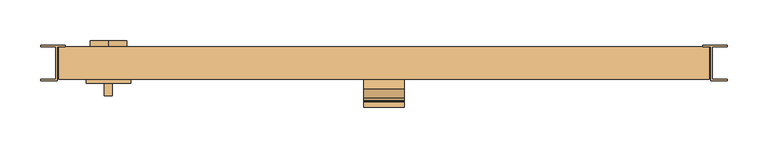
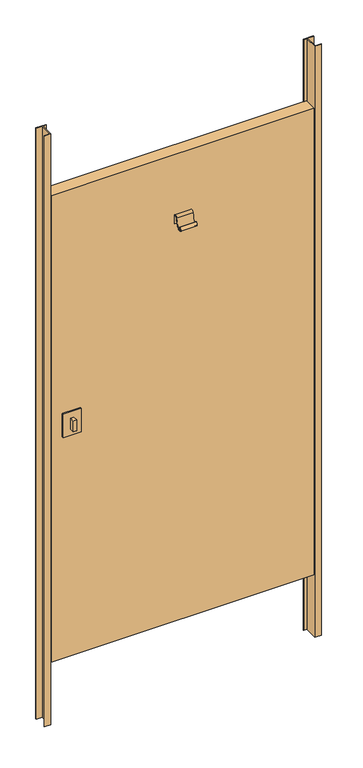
"""IFC4 building model written with IfcOpenShell, lengths in millimetres: door geometry, FDE_PM_PortaBoxe : PM74_PortaBoxe_L0,62m."""

import ifcopenshell
import ifcopenshell.guid

model = None  # the IFC model being written
_history = None  # IfcOwnerHistory: only IFC2X3 demands one
_inside = {}  # id of a spatial element -> (the spatial element, [elements in it])
_under = {}  # id of a project, library or spatial element -> (it, [spatial elements below it])
_declared = {}  # id of a project -> (the project, [libraries it declares])
_typed = {}  # id of a type object -> (the type object, [elements of that type])
_made_of = {}  # id of a material, layer set ... -> (it, [elements and type objects made of it])


def new_model(schema):
    """Start an empty IFC model of exactly this schema.

    Asked for "IFC4X3", IfcOpenShell would pick the latest addendum, in which some entities
    have other attributes; the version numbers below select the first issue.
    IFC2X3 requires an IfcOwnerHistory on every rooted entity: one is made here for all.
    """
    global model, _history
    if schema == "IFC4X3":
        model = ifcopenshell.file(schema_version=(4, 3, 0, 0))
    else:
        model = ifcopenshell.file(schema=schema)
    _inside.clear()
    _under.clear()
    _declared.clear()
    _typed.clear()
    _made_of.clear()
    _history = None
    if model.schema == "IFC2X3":
        org = make("IfcOrganization", Name="unknown")
        user = make(
            "IfcPersonAndOrganization",
            ThePerson=make("IfcPerson", FamilyName="unknown"),
            TheOrganization=org,
        )
        app = make(
            "IfcApplication",
            ApplicationDeveloper=org,
            Version="unknown",
            ApplicationFullName="unknown",
            ApplicationIdentifier="unknown",
        )
        _history = make(
            "IfcOwnerHistory",
            OwningUser=user,
            OwningApplication=app,
            ChangeAction="ADDED",
            CreationDate=0,
        )
    return model


def make(cls, **values):
    """One entity of the class cls with the attributes given. An attribute that is None is left unset."""
    return model.create_entity(
        cls, **{name: value for name, value in values.items() if value is not None}
    )


def rooted(cls, **values):
    """An entity with a GlobalId (a new one), such as an element, a storey or a relation."""
    return make(cls, GlobalId=ifcopenshell.guid.new(), OwnerHistory=_history, **values)


def si_unit(unit_type, name, prefix=None):
    """IfcSIUnit, for example si_unit("LENGTHUNIT", "METRE", prefix="MILLI")."""
    return make("IfcSIUnit", UnitType=unit_type, Prefix=prefix, Name=name)


def assignment(units):
    """IfcUnitAssignment: the units of a project."""
    return None if units is None else make("IfcUnitAssignment", Units=units)


def point(xyz):
    """IfcCartesianPoint."""
    return None if xyz is None else make("IfcCartesianPoint", Coordinates=xyz)


def direction(xyz):
    """IfcDirection."""
    return None if xyz is None else make("IfcDirection", DirectionRatios=xyz)


def frame(location, z_axis=None, x_axis=None):
    """IfcAxis2Placement3D, a coordinate frame: its origin and axes. An axis left out is left unset."""
    return make(
        "IfcAxis2Placement3D",
        Location=point(location),
        Axis=direction(z_axis),
        RefDirection=direction(x_axis),
    )


def frame_2d(location, x_axis=None):
    """IfcAxis2Placement2D, a coordinate frame in the plane: its origin and x axis."""
    return make(
        "IfcAxis2Placement2D", Location=point(location), RefDirection=direction(x_axis)
    )


def origin():
    """The frame at (0, 0, 0) with its axes left unset."""
    return frame((0.0, 0.0, 0.0))


def origin_with_axes():
    """The frame at (0, 0, 0) with the z axis (0, 0, 1) and the x axis (1, 0, 0) written out."""
    return frame((0.0, 0.0, 0.0), z_axis=(0.0, 0.0, 1.0), x_axis=(1.0, 0.0, 0.0))


def place(relative_to, where):
    """IfcLocalPlacement: puts the frame where relative to a parent placement (None: the world)."""
    return make(
        "IfcLocalPlacement", PlacementRelTo=relative_to, RelativePlacement=where
    )


def context(
    kind, dimensions, precision=None, world=None, true_north=None, identifier=None
):
    """IfcGeometricRepresentationContext, for example the 3D "Model" context."""
    return make(
        "IfcGeometricRepresentationContext",
        ContextIdentifier=identifier,
        ContextType=kind,
        CoordinateSpaceDimension=dimensions,
        Precision=precision,
        WorldCoordinateSystem=world,
        TrueNorth=true_north,
    )


def project(units=None, contexts=None):
    """IfcProject with its units and contexts."""
    return rooted(
        "IfcProject",
        Name="project",
        RepresentationContexts=contexts,
        UnitsInContext=assignment(units),
    )


def spatial(cls, under=None, at=None, **own):
    """A site, building, storey or space (cls), placed at a placement, below another one or the project."""
    s = rooted(cls, ObjectPlacement=at, **own)
    if under is not None:
        _under.setdefault(under.id(), (under, []))[1].append(s)
    return s


def polyline(points):
    """IfcPolyline through the points."""
    return make("IfcPolyline", Points=[point(p) for p in points])


def circle_curve(where, radius):
    """IfcCircle in the frame where."""
    return make("IfcCircle", Position=where, Radius=radius)


def trimmed(basis, trim1, trim2, sense, master):
    """IfcTrimmedCurve: the piece of a basis curve between two trims."""
    return make(
        "IfcTrimmedCurve",
        BasisCurve=basis,
        Trim1=trim1,
        Trim2=trim2,
        SenseAgreement=sense,
        MasterRepresentation=master,
    )


def segment(curve, same_sense, transition):
    """IfcCompositeCurveSegment."""
    return make(
        "IfcCompositeCurveSegment",
        Transition=transition,
        SameSense=same_sense,
        ParentCurve=curve,
    )


def composite_curve(segments, self_intersect=None):
    """IfcCompositeCurve: segments joined end to end."""
    return make("IfcCompositeCurve", Segments=segments, SelfIntersect=self_intersect)


def outline(outer, holes=None, kind="AREA"):
    """IfcArbitraryClosedProfileDef: a profile drawn as a closed curve; with holes, ...WithVoids."""
    if holes is None:
        return make("IfcArbitraryClosedProfileDef", ProfileType=kind, OuterCurve=outer)
    return make(
        "IfcArbitraryProfileDefWithVoids",
        ProfileType=kind,
        OuterCurve=outer,
        InnerCurves=holes,
    )


def extrude(swept, where, along, depth):
    """IfcExtrudedAreaSolid: the profile swept, set in the frame where, extruded along a direction by depth."""
    return make(
        "IfcExtrudedAreaSolid",
        SweptArea=swept,
        Position=where,
        ExtrudedDirection=direction(along),
        Depth=depth,
    )


def shape(context_of_items, identifier, shape_type, items):
    """IfcShapeRepresentation: the items that make up one representation, for example the "Body"."""
    return make(
        "IfcShapeRepresentation",
        ContextOfItems=context_of_items,
        RepresentationIdentifier=identifier,
        RepresentationType=shape_type,
        Items=items,
    )


def source(mapping_origin, context_of_items, identifier, shape_type, items):
    """IfcRepresentationMap: a shape defined once, which mapped items show again and again."""
    return make(
        "IfcRepresentationMap",
        MappingOrigin=mapping_origin,
        MappedRepresentation=shape(context_of_items, identifier, shape_type, items),
    )


def transform(
    local_origin,
    x_axis=None,
    y_axis=None,
    z_axis=None,
    scale=None,
    scale2=None,
    scale3=None,
    uniform=True,
):
    """IfcCartesianTransformationOperator3D, or its non-uniform kind. x_axis, y_axis, z_axis: its Axis1, 2, 3."""
    if uniform:
        return make(
            "IfcCartesianTransformationOperator3D",
            Axis1=direction(x_axis),
            Axis2=direction(y_axis),
            LocalOrigin=point(local_origin),
            Scale=scale,
            Axis3=direction(z_axis),
        )
    return make(
        "IfcCartesianTransformationOperator3DnonUniform",
        Axis1=direction(x_axis),
        Axis2=direction(y_axis),
        LocalOrigin=point(local_origin),
        Scale=scale,
        Axis3=direction(z_axis),
        Scale2=scale2,
        Scale3=scale3,
    )


def mapped(mapping_source, mapping_target):
    """IfcMappedItem: shows the shape of a source again, moved by a transform."""
    return make(
        "IfcMappedItem", MappingSource=mapping_source, MappingTarget=mapping_target
    )


def made_of(thing, what):
    """Note that an element or type object is made of a material, layer set ...; save() writes the relation."""
    if what is not None:
        _made_of.setdefault(what.id(), (what, []))[1].append(thing)
    return thing


def element(
    cls,
    number,
    at=None,
    inside=None,
    cuts=None,
    type_object=None,
    material=None,
    context=None,
    identifier="Body",
    shape_type=None,
    held_by="IfcProductDefinitionShape",
    body=None,
    shapes=None,
    **own,
):
    """One element of the class cls, such as IfcWall. Its Tag is "e" and its number.

    at: its placement. inside: the storey or other place that contains it. cuts: it is an
    opening in that element (IfcRelVoidsElement). A single representation is given by context,
    identifier, shape_type and body (its items); several are given by shapes. held_by: the class
    of the entity that holds the representations. save() writes the other relations.
    """
    e = rooted(cls, Tag="e%d" % number, ObjectPlacement=at, **own)
    if body is not None:
        shapes = [shape(context, identifier, shape_type, body)]
    if shapes is not None:
        e.Representation = make(held_by, Representations=shapes)
    if inside is not None:
        _inside.setdefault(inside.id(), (inside, []))[1].append(e)
    if cuts is not None:
        rooted(
            "IfcRelVoidsElement", RelatingBuildingElement=cuts, RelatedOpeningElement=e
        )
    if type_object is not None:
        _typed.setdefault(type_object.id(), (type_object, []))[1].append(e)
    return made_of(e, material)


def aggregate(whole, parts):
    """IfcRelAggregates: a whole, such as a stair, and the parts it consists of."""
    return rooted("IfcRelAggregates", RelatingObject=whole, RelatedObjects=parts)


def save(model, path):
    """Write the relations noted so far, then the file.

    IfcRelAggregates (storeys below a building ...), IfcRelContainedInSpatialStructure (elements
    in a storey), IfcRelDefinesByType, IfcRelAssociatesMaterial and IfcRelDeclares: one each for
    every whole, place, type object, material and project.
    """
    for whole, parts in _under.values():
        aggregate(whole, parts)
    for where, things in _inside.values():
        rooted(
            "IfcRelContainedInSpatialStructure",
            RelatedElements=things,
            RelatingStructure=where,
        )
    for kind, things in _typed.values():
        rooted("IfcRelDefinesByType", RelatedObjects=things, RelatingType=kind)
    for what, things in _made_of.values():
        rooted("IfcRelAssociatesMaterial", RelatedObjects=things, RelatingMaterial=what)
    for by, libraries in _declared.values():
        rooted("IfcRelDeclares", RelatingContext=by, RelatedDefinitions=libraries)
    model.write(path)


def door_1a2d8e3b(model_context):
    return source(origin(), model_context, "Body", "SweptSolid", [
        extrude(outline(composite_curve([segment(trimmed(circle_curve(frame_2d((950.0, -339.0)), 22.5), [point((927.5, -339.0))], [point((972.5, -339.0))], False, "CARTESIAN"), True, "CONTINUOUS"), segment(trimmed(circle_curve(frame_2d((950.0, -339.0)), 22.5), [point((972.5, -339.0))], [point((927.5, -339.0))], False, "CARTESIAN"), True, "CONTINUOUS")], self_intersect=False)), frame((0.0, 0.0, 0.0), z_axis=(0.0, 1.0, 0.0), x_axis=(0.0, 0.0, 1.0)), (0.0, 0.0, 1.0), 7.4328407),
        extrude(outline(polyline([(-344.0, -60.0), (-344.0, -45.0), (-334.0, -45.0), (-334.0, -60.0), (-344.0, -60.0)])), frame((0.0, 0.0, 932.5), z_axis=(0.0, 0.0, 1.0), x_axis=(1.0, 0.0, 0.0)), (0.0, 0.0, 1.0), 35.0),
        extrude(outline(polyline([(-366.5, -45.0), (-366.5, -35.0), (-311.5, -35.0), (-311.5, -45.0), (-366.5, -45.0)])), frame((0.0, 0.0, 912.5), z_axis=(0.0, 0.0, 1.0), x_axis=(1.0, 0.0, 0.0)), (0.0, 0.0, 1.0), 75.0),
        extrude(outline(composite_curve([segment(trimmed(circle_curve(frame_2d((-46.298616, 1503.1338874)), 4.298616), [point((-42.0, 1503.1338874))], [point((-50.597232, 1503.1338874))], True, "CARTESIAN"), True, "CONTINUOUS"), segment(trimmed(circle_curve(frame_2d((-95.1631226, 1503.1338874)), 44.5658907), [point((-50.597232, 1503.1338874))], [point((-61.0236697, 1474.487485))], False, "CARTESIAN"), True, "CONTINUOUS"), segment(trimmed(circle_curve(frame_2d((-66.9440153, 1479.4552447)), 7.7284622), [point((-61.0236697, 1474.487485))], [point((-72.8643608, 1474.487485))], False, "CARTESIAN"), True, "CONTINUOUS"), segment(trimmed(circle_curve(frame_2d((-68.2967965, 1478.3201265)), 5.9625316), [point((-72.8643608, 1474.487485))], [point((-68.0887072, 1484.2790259))], False, "CARTESIAN"), True, "CONTINUOUS"), segment(trimmed(circle_curve(frame_2d((-68.4109224, 1482.6952637)), 1.6162071), [point((-68.0887072, 1484.2790259))], [point((-67.0901078, 1483.6267002))], False, "CARTESIAN"), True, "CONTINUOUS"), segment(trimmed(circle_curve(frame_2d((-67.4463365, 1482.9606765)), 0.7553055), [point((-67.0901078, 1483.6267002))], [point((-67.5824915, 1482.2177444))], False, "CARTESIAN"), True, "CONTINUOUS"), segment(trimmed(circle_curve(frame_2d((-68.2967965, 1478.3201265)), 3.9625316), [point((-67.5824915, 1482.2177444))], [point((-71.3322719, 1475.7730602))], True, "CARTESIAN"), True, "CONTINUOUS"), segment(trimmed(circle_curve(frame_2d((-66.9440153, 1479.4552447)), 5.7284622), [point((-71.3322719, 1475.7730602))], [point((-62.5557586, 1475.7730602))], True, "CARTESIAN"), True, "CONTINUOUS"), segment(trimmed(circle_curve(frame_2d((-95.1631226, 1503.1338874)), 42.5658907), [point((-62.5557586, 1475.7730602))], [point((-52.597232, 1503.1338874))], True, "CARTESIAN"), True, "CONTINUOUS"), segment(trimmed(circle_curve(frame_2d((-46.298616, 1503.1338874)), 6.298616), [point((-52.597232, 1503.1338874))], [point((-40.0, 1503.1338874))], False, "CARTESIAN"), True, "CONTINUOUS"), segment(polyline([(-40.0, 1503.1338874), (-40.0, 1478.8625069), (-42.0, 1478.8625069), (-42.0, 1503.1338874)]), True, "CONTINUOUS")], self_intersect=False)), frame((-25.0, 0.0, 0.0), z_axis=(1.0, 0.0, 0.0), x_axis=(0.0, 1.0, 0.0)), (0.0, 0.0, 1.0), 50.0),
        extrude(outline(polyline([(400.0, -40.0), (-400.0, -40.0), (-400.0, 0.0), (400.0, 0.0), (400.0, -40.0)])), frame((0.0, 0.0, 200.0), z_axis=(0.0, 0.0, 1.0), x_axis=(1.0, 0.0, 0.0)), (0.0, 0.0, 1.0), 1500.0),
        extrude(outline(polyline([(-402.0, 0.0), (-402.0, -42.0), (-422.0, -42.0), (-422.0, -40.0), (-404.0, -40.0), (-404.0, 0.0), (-422.3964539, 0.0), (-422.3964539, 2.0), (-392.0, 2.0), (-392.0, 0.0), (-402.0, 0.0)])), origin_with_axes(), (0.0, 0.0, 1.0), 1900.0),
        extrude(outline(polyline([(402.0, 0.0), (392.0, 0.0), (392.0, 2.0), (422.3964539, 2.0), (422.3964539, 0.0), (404.0, 0.0), (404.0, -40.0), (422.0, -40.0), (422.0, -42.0), (402.0, -42.0), (402.0, 0.0)])), origin_with_axes(), (0.0, 0.0, 1.0), 1900.0),
    ])


if __name__ == "__main__":
    model = new_model("IFC4")
    model_context = context("Model", 3, world=origin())
    ifc_project = project(units=[si_unit("LENGTHUNIT", "METRE", prefix="MILLI")], contexts=[model_context])
    site = spatial("IfcSite", under=ifc_project)
    building = spatial("IfcBuilding", under=site)
    placement = place(None, origin())
    door_shape = door_1a2d8e3b(model_context)
    element("IfcDoor", 1, ObjectType="FDE_PM_PortaBoxe : PM74_PortaBoxe_L0,62m", at=placement, inside=building, context=model_context, shape_type="MappedRepresentation", body=[
        mapped(door_shape, transform((0.0, 0.0, 0.0), x_axis=(1.0, 0.0, 0.0), y_axis=(0.0, 1.0, 0.0), z_axis=(0.0, 0.0, 1.0))),
    ])
    save(model, "model.ifc")
